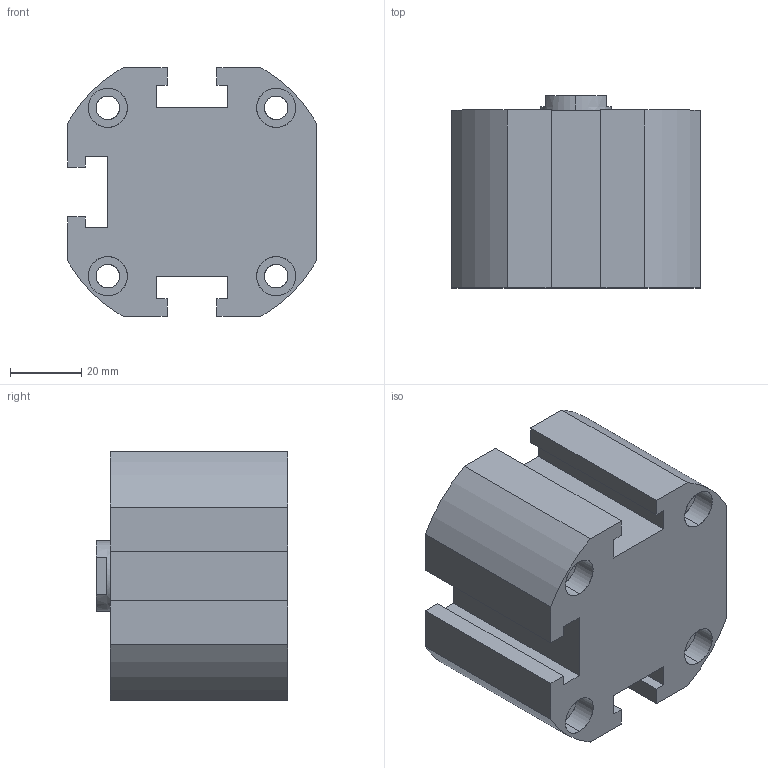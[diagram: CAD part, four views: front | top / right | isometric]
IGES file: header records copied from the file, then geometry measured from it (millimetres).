
Start section: SolidWorks IGES file using analytic representation for surfaces
Global section: file name: C:\Users\Toshiba\Desktop\XG#2-50D-10.IGS; native system: SolidWorks 2014; preprocessor: SolidWorks 2014; author: Toshiba; date: 160524.095257; units: millimetre
Bounding box: 70 x 54 x 70 mm (x, y, z)
Surface area: 31627.4 mm2 (no closed solid volume)
Topology: 0 solids, 0 shells, 114 faces, 2042 edges, 2036 vertices
Faces by surface type: revolution 64, bspline 50
